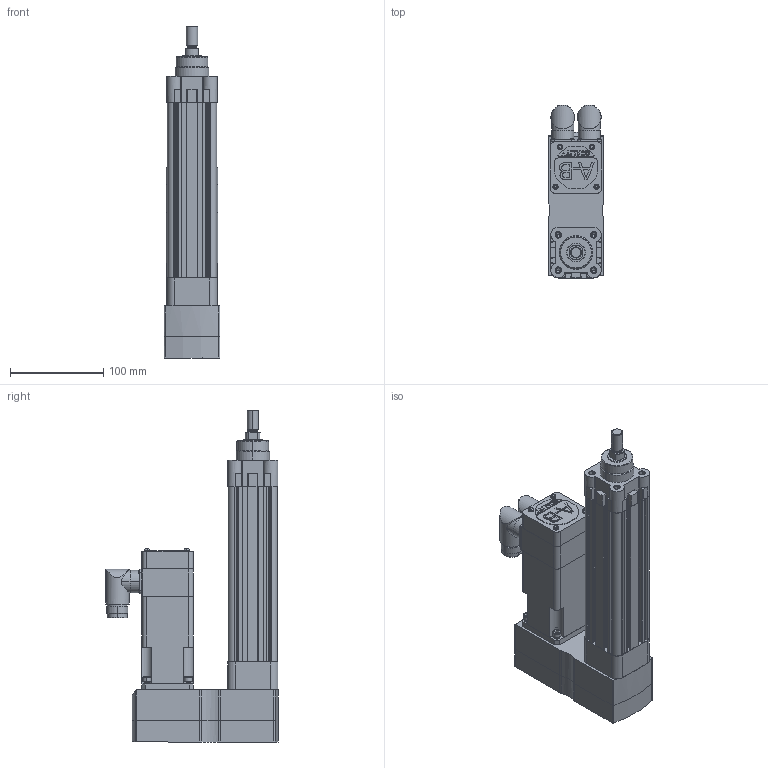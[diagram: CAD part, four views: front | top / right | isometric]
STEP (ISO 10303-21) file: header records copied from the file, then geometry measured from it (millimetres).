
FILE_DESCRIPTION (( 'STEP AP214' ), '1' );
FILE_NAME ('Rockwell Automation-$PARTNUMBER.STEP', '2015-07-10T12:53:11', ( 'Windows User' ), ( '' ), 'SwSTEP 2.0', 'SolidWorks 2015', '' );
FILE_SCHEMA (( 'AUTOMOTIVE_DESIGN' ));
Length unit declared in the file: millimetre
Products named in the file (16): Rockwell Automation-$PARTNUMBER_Rockwell Automation-MPAR-X2100C-V2B_627501_1210166; Rockwell Automation-$PARTNUMBER_Rockwell Automation-MPAR-X2100C-V2B_627501_1210200; Rockwell Automation-$PARTNUMBER_Rockwell Automation-MPAR-X2100C-V2B_627501_200048_3; Rockwell Automation-$PARTNUMBER_Rockwell Automation-MPAR-X2100C-V2B_627501_200671_3; Rockwell Automation-$PARTNUMBER_Rockwell Automation-MPAR-X2100C-V2B_627501_PRT0001; Rockwell Automation-$PARTNUMBER_Rockwell Automation-MPAR-X2100C-V2B_MPL-x1530F-V-X207_MPL-x1530x-xJ42AA; Rockwell Automation-$PARTNUMBER_Rockwell Automation-MPAR-X2100C-V2B_MPL-x1530x-xJ42AA_MPL-15xx-Power Connector; Rockwell Automation-$PARTNUMBER_Rockwell Automation-MPAR-X2100C-V2B_MPL-x1530x-xJ42AA_MPL-15xx-Feedback Connector; Rockwell Automation-$PARTNUMBER_Rockwell Automation-MPAR-X2100C-V2B_MPL-x1530x-xJ42AA_MPL-15xx-Shaft-Key_1530-SHAFT-KEYED; Rockwell Automation-$PARTNUMBER_Rockwell Automation-MPAR-X2100C-V2B_MPL-x1530x-xJ42AA_MPL-15xx-Body_1530; Rockwell Automation-$PARTNUMBER_Rockwell Automation-MPAR-X2100C-V2B_MPAR-x2100x; Rockwell Automation-$PARTNUMBER_Rockwell Automation-MPAR-X2100C-V2B_2-543131; Rockwell Automation-$PARTNUMBER_Rockwell Automation-MPAR-X2100C-V2B_1-543131; Rockwell Automation-$PARTNUMBER; Rockwell Automation-$PARTNUMBER_Rockwell Automation-MPAR-X2100C-V2B_627501; Rockwell Automation-$PARTNUMBER_Rockwell Automation-MPAR-X2100C-V2B_627501_1210438_ST_ASM
Assembly tree (25 placements, depth 4):
  Rockwell Automation-$PARTNUMBER
    Rockwell Automation-$PARTNUMBER_Rockwell Automation-MPAR-X2100C-V2B_MPAR-x2100x
      Rockwell Automation-$PARTNUMBER_Rockwell Automation-MPAR-X2100C-V2B_1-543131
      Rockwell Automation-$PARTNUMBER_Rockwell Automation-MPAR-X2100C-V2B_2-543131
    Rockwell Automation-$PARTNUMBER_Rockwell Automation-MPAR-X2100C-V2B_MPL-x1530F-V-X207_MPL-x1530x-xJ42AA
      Rockwell Automation-$PARTNUMBER_Rockwell Automation-MPAR-X2100C-V2B_MPL-x1530x-xJ42AA_MPL-15xx-Body_1530
      Rockwell Automation-$PARTNUMBER_Rockwell Automation-MPAR-X2100C-V2B_MPL-x1530x-xJ42AA_MPL-15xx-Shaft-Key_1530-SHAFT-KEYED
      Rockwell Automation-$PARTNUMBER_Rockwell Automation-MPAR-X2100C-V2B_MPL-x1530x-xJ42AA_MPL-15xx-Feedback Connector
      Rockwell Automation-$PARTNUMBER_Rockwell Automation-MPAR-X2100C-V2B_MPL-x1530x-xJ42AA_MPL-15xx-Power Connector
    Rockwell Automation-$PARTNUMBER_Rockwell Automation-MPAR-X2100C-V2B_627501
      Rockwell Automation-$PARTNUMBER_Rockwell Automation-MPAR-X2100C-V2B_627501_1210438_ST_ASM
        Rockwell Automation-$PARTNUMBER_Rockwell Automation-MPAR-X2100C-V2B_627501_PRT0001  x4
        Rockwell Automation-$PARTNUMBER_Rockwell Automation-MPAR-X2100C-V2B_627501_200671_3  x4
        Rockwell Automation-$PARTNUMBER_Rockwell Automation-MPAR-X2100C-V2B_627501_200048_3  x5
        Rockwell Automation-$PARTNUMBER_Rockwell Automation-MPAR-X2100C-V2B_627501_1210200
        Rockwell Automation-$PARTNUMBER_Rockwell Automation-MPAR-X2100C-V2B_627501_1210166
Bounding box: 60 x 185.6 x 356.5 mm (x, y, z)
Volume: 1240689 mm3; surface area: 298591.7 mm2
Topology: 25 solids, 25 shells, 1619 faces, 3966 edges, 2514 vertices
Faces by surface type: plane 641, cylinder 564, cone 252, bspline 114, torus 48
Entity records: 46026 total; most frequent: CARTESIAN_POINT 12817, DIRECTION 6871, ORIENTED_EDGE 6548, EDGE_CURVE 3274, AXIS2_PLACEMENT_3D 2580, VERTEX_POINT 2094, VECTOR 1711, LINE 1711
